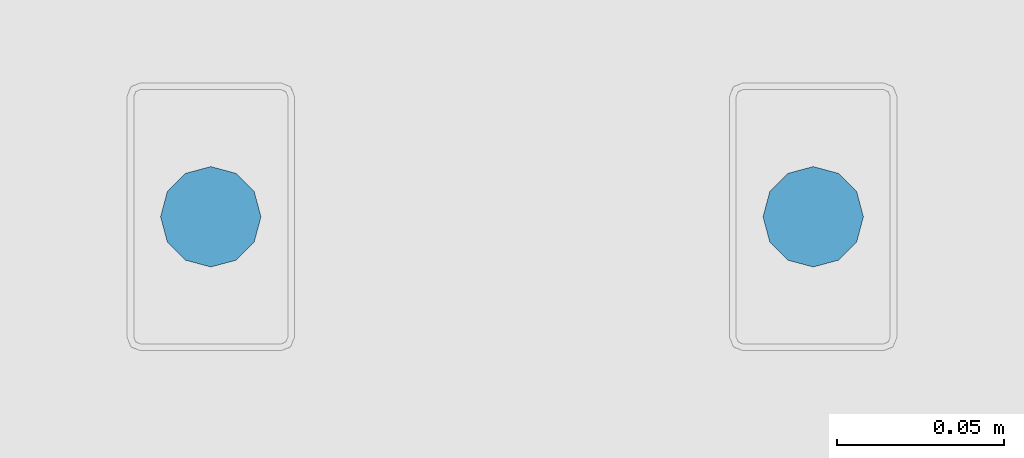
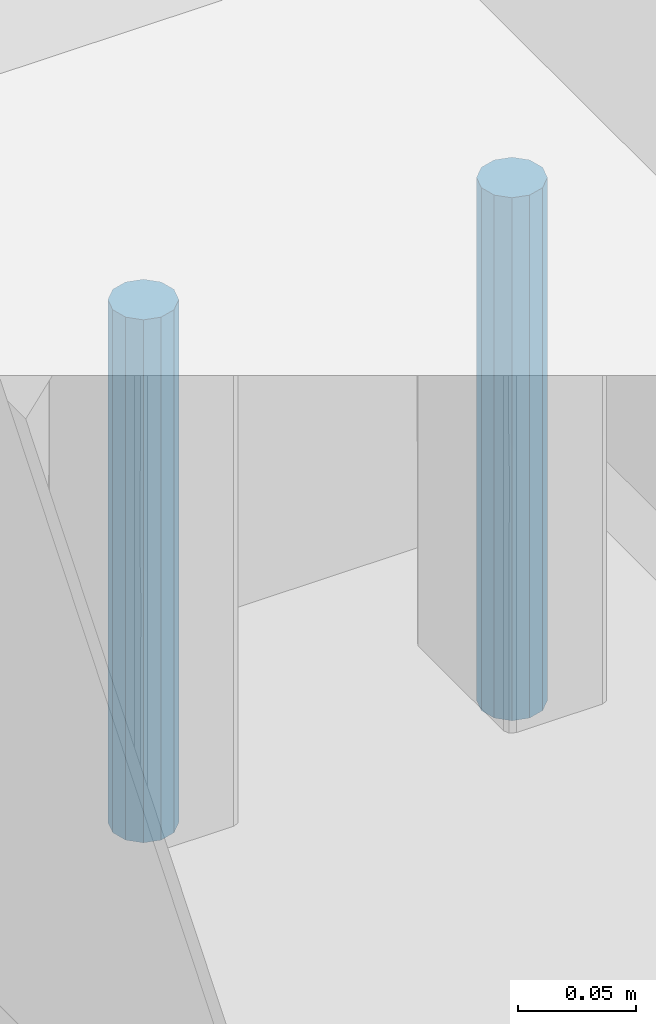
# One storey, part 205 of 230: 2 beams.
"""IFC4X3_ADD2 building model written with IfcOpenShell, lengths in millimetres."""

from ifc_helpers import new_model, si_unit, direction, origin_with_axes, place, context, subcontext, project, spatial, polygons, element, save


model = new_model("IFC4X3_ADD2")

# Units and contexts
model_context = context("Model", 3, precision=1e-05, world=origin_with_axes(), true_north=direction((0.0, 1.0)))
body_context = subcontext(model_context, "Body", "Model", "MODEL_VIEW")
ifc_project = project(units=[si_unit("LENGTHUNIT", "METRE", prefix="MILLI"), si_unit("AREAUNIT", "SQUARE_METRE"), si_unit("VOLUMEUNIT", "CUBIC_METRE"), si_unit("PLANEANGLEUNIT", "RADIAN"), si_unit("TIMEUNIT", "SECOND"), si_unit("MASSUNIT", "GRAM")], contexts=[model_context])

# Site, building, storey
site_placement = place(None, origin_with_axes())
site = spatial("IfcSite", under=ifc_project, at=site_placement, Name="Site", CompositionType="ELEMENT")
building_placement = place(site_placement, origin_with_axes())
building = spatial("IfcBuilding", under=site, at=building_placement, Name="IFC Building Story")
storey_placement = place(building_placement, origin_with_axes())
storey = spatial("IfcBuildingStorey", under=building, at=storey_placement, Name="ETAGE 00 (0)", Elevation=0.0)

# Beams
beam_1_placement = place(storey_placement, origin_with_axes())
element("IfcBeam", 1, at=beam_1_placement, inside=storey, Name="SD11", ObjectType="D30", context=body_context, shape_type="Tessellation", body=[
    polygons([(33476.1883474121, 26034.99896240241, 3960.0), (33476.1883474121, 26034.99896240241, 3690.0), (33478.19796635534, 26027.49896240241, 3690.0), (33478.19796635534, 26027.49896240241, 3960.0), (33483.68834741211, 26022.00858134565, 3690.0), (33483.68834741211, 26022.00858134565, 3960.0), (33491.18834741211, 26019.9989624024, 3690.0), (33491.18834741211, 26019.9989624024, 3960.0), (33498.6883474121, 26022.00858134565, 3690.0), (33498.6883474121, 26022.00858134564, 3960.0), (33504.17872846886, 26027.49896240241, 3690.0), (33504.17872846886, 26027.49896240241, 3960.0), (33506.1883474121, 26034.99896240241, 3690.0), (33506.1883474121, 26034.99896240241, 3960.0), (33504.17872846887, 26042.4989624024, 3690.0), (33504.17872846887, 26042.4989624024, 3960.0), (33498.68834741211, 26047.98934345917, 3690.0), (33498.6883474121, 26047.98934345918, 3960.0), (33491.18834741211, 26049.9989624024, 3690.0), (33491.18834741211, 26049.9989624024, 3960.0), (33483.68834741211, 26047.98934345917, 3690.0), (33483.68834741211, 26047.98934345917, 3960.0), (33478.19796635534, 26042.4989624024, 3690.0), (33478.19796635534, 26042.49896240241, 3960.0)], [[[1, 2, 3, 4]], [[4, 3, 5, 6]], [[6, 5, 7, 8]], [[8, 7, 9, 10]], [[10, 9, 11, 12]], [[12, 11, 13, 14]], [[14, 13, 15, 16]], [[16, 15, 17, 18]], [[18, 17, 19, 20]], [[20, 19, 21, 22]], [[22, 21, 23, 24]], [[24, 23, 2, 1]], [[4, 6, 8]], [[4, 8, 10]], [[4, 10, 12]], [[4, 12, 14]], [[4, 14, 16]], [[4, 16, 18]], [[4, 18, 20]], [[4, 20, 22]], [[4, 22, 24]], [[4, 24, 1]], [[2, 23, 21]], [[2, 21, 19]], [[2, 19, 17]], [[2, 17, 15]], [[2, 15, 13]], [[2, 13, 11]], [[2, 11, 9]], [[2, 9, 7]], [[2, 7, 5]], [[2, 5, 3]]]),
])
beam_2_placement = place(storey_placement, origin_with_axes())
element("IfcBeam", 2, at=beam_2_placement, inside=storey, Name="SD11", ObjectType="D30", context=body_context, shape_type="Tessellation", body=[
    polygons([(33296.1883474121, 26034.9989624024, 3960.0), (33296.1883474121, 26034.9989624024, 3690.0), (33298.19796635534, 26027.4989624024, 3690.0), (33298.19796635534, 26027.4989624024, 3960.0), (33303.68834741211, 26022.00858134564, 3690.0), (33303.68834741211, 26022.00858134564, 3960.0), (33311.1883474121, 26019.9989624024, 3690.0), (33311.1883474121, 26019.9989624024, 3960.0), (33318.68834741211, 26022.00858134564, 3690.0), (33318.68834741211, 26022.00858134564, 3960.0), (33324.17872846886, 26027.4989624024, 3690.0), (33324.17872846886, 26027.4989624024, 3960.0), (33326.1883474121, 26034.9989624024, 3690.0), (33326.1883474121, 26034.9989624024, 3960.0), (33324.17872846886, 26042.49896240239, 3690.0), (33324.17872846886, 26042.49896240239, 3960.0), (33318.68834741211, 26047.98934345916, 3690.0), (33318.68834741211, 26047.98934345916, 3960.0), (33311.1883474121, 26049.9989624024, 3690.0), (33311.1883474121, 26049.9989624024, 3960.0), (33303.68834741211, 26047.98934345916, 3690.0), (33303.68834741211, 26047.98934345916, 3960.0), (33298.19796635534, 26042.49896240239, 3690.0), (33298.19796635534, 26042.4989624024, 3960.0)], [[[1, 2, 3, 4]], [[4, 3, 5, 6]], [[6, 5, 7, 8]], [[8, 7, 9, 10]], [[10, 9, 11, 12]], [[12, 11, 13, 14]], [[14, 13, 15, 16]], [[16, 15, 17, 18]], [[18, 17, 19, 20]], [[20, 19, 21, 22]], [[22, 21, 23, 24]], [[24, 23, 2, 1]], [[4, 6, 8]], [[4, 8, 10]], [[4, 10, 12]], [[4, 12, 14]], [[4, 14, 16]], [[4, 16, 18]], [[4, 18, 20]], [[4, 20, 22]], [[4, 22, 24]], [[4, 24, 1]], [[2, 23, 21]], [[2, 21, 19]], [[2, 19, 17]], [[2, 17, 15]], [[2, 15, 13]], [[2, 13, 11]], [[2, 11, 9]], [[2, 9, 7]], [[2, 7, 5]], [[2, 5, 3]]]),
])

save(model, "model.ifc")
